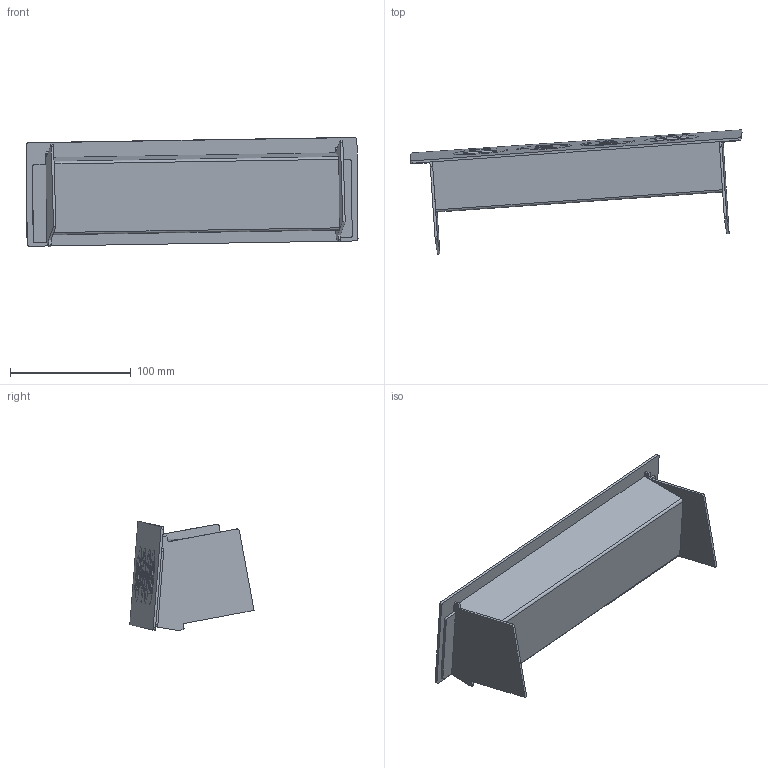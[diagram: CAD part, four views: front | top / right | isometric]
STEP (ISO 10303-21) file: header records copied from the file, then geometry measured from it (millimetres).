
FILE_DESCRIPTION((''),'2;1');
FILE_NAME('P:\Manufacturing\Autocad drawings\Inventor\blocks\Podium\Podium 4 gang US1 + TUF.stp','2021-01-19T09:24:10',('ScottReyner'),(''),'Autodesk Inventor 2012','Autodesk Inventor 2012','');
FILE_SCHEMA(('AUTOMOTIVE_DESIGN { 1 0 10303 214 1 1 1 1 }'));
Length unit declared in the file: inch
Products named in the file (1): Part234
Bounding box: 275.31 x 103 x 90.61 mm (x, y, z)
Volume: 501107.1 mm3; surface area: 140539.3 mm2
Topology: 2 solids, 14 shells, 6708 faces, 19059 edges, 12330 vertices
Faces by surface type: plane 4162, cylinder 2014, bspline 354, torus 130, cone 40, sphere 8
Full cylindrical faces by diameter (mm): 0.5 x2, 0.7 x4, 0.8 x4, 1.2 x8, 5.106 x4, 5.5 x4, 6.6 x4, 41 x2, 42.6 x2, 44 x2, 44.776 x2, 44.8 x2, 45.2 x4
Entity records: 238015 total; most frequent: CARTESIAN_POINT 55681, ORIENTED_EDGE 37932, DIRECTION 35568, EDGE_CURVE 18966, VECTOR 13864, LINE 13864, VERTEX_POINT 12310, AXIS2_PLACEMENT_3D 10852
